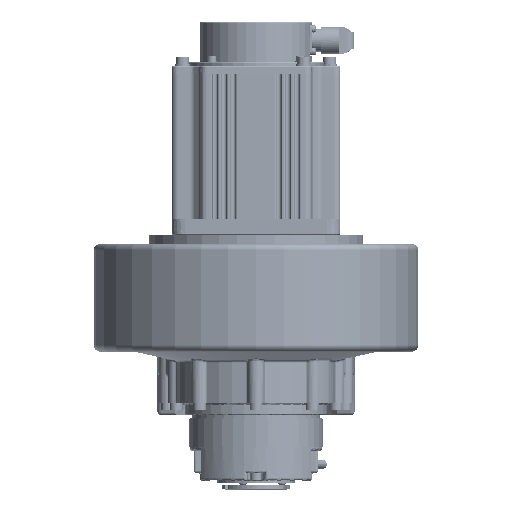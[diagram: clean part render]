
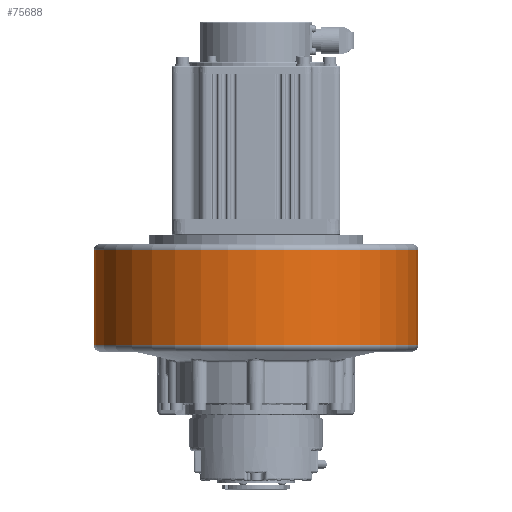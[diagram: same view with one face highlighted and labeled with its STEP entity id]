
A CAD part, front view. The second image highlights one B-rep face of the part: STEP entity #75688.
In plain terms, the highlighted cylindrical face has radius 125 mm (diameter 250 mm), a full revolution.
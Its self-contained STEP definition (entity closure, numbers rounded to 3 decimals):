
#11947 = DIRECTION ( 'NONE',  ( 0., 0., -1. ) ) ;
#12433 = AXIS2_PLACEMENT_3D ( 'NONE', #17269, #128680, #145233 ) ;
#14808 = CIRCLE ( 'NONE', #12433, 125. ) ;
#16758 = DIRECTION ( 'NONE',  ( 0., 0., -1. ) ) ;
#17269 = CARTESIAN_POINT ( 'NONE',  ( -157.927, 78.327, -143.962 ) ) ;
#25224 = FACE_OUTER_BOUND ( 'NONE', #159226, .T. ) ;
#68082 = CARTESIAN_POINT ( 'NONE',  ( -282.927, 78.327, -143.962 ) ) ;
#68473 = AXIS2_PLACEMENT_3D ( 'NONE', #112151, #16758, #160773 ) ;
#72218 = VERTEX_POINT ( 'NONE', #68082 ) ;
#72606 = CYLINDRICAL_SURFACE ( 'NONE', #68473, 125. ) ;
#75688 = ADVANCED_FACE ( 'NONE', ( #25224, #191912 ), #72606, .T. ) ;
#75752 = AXIS2_PLACEMENT_3D ( 'NONE', #186502, #11947, #91995 ) ;
#75879 = CARTESIAN_POINT ( 'NONE',  ( -282.927, 78.327, -70.962 ) ) ;
#91995 = DIRECTION ( 'NONE',  ( -1., 0., 0. ) ) ;
#94115 = VERTEX_POINT ( 'NONE', #75879 ) ;
#112151 = CARTESIAN_POINT ( 'NONE',  ( -157.927, 78.327, -148.962 ) ) ;
#127448 = CIRCLE ( 'NONE', #75752, 125. ) ;
#128680 = DIRECTION ( 'NONE',  ( 0., 0., 1. ) ) ;
#145233 = DIRECTION ( 'NONE',  ( -1., 0., 0. ) ) ;
#149765 = EDGE_CURVE ( 'NONE', #72218, #72218, #14808, .T. ) ;
#159226 = EDGE_LOOP ( 'NONE', ( #161578 ) ) ;
#160773 = DIRECTION ( 'NONE',  ( -1., 0., 0. ) ) ;
#161578 = ORIENTED_EDGE ( 'NONE', *, *, #149765, .T. ) ;
#186502 = CARTESIAN_POINT ( 'NONE',  ( -157.927, 78.327, -70.962 ) ) ;
#191912 = FACE_OUTER_BOUND ( 'NONE', #200701, .T. ) ;
#200701 = EDGE_LOOP ( 'NONE', ( #206127 ) ) ;
#202836 = EDGE_CURVE ( 'NONE', #94115, #94115, #127448, .T. ) ;
#206127 = ORIENTED_EDGE ( 'NONE', *, *, #202836, .T. ) ;
